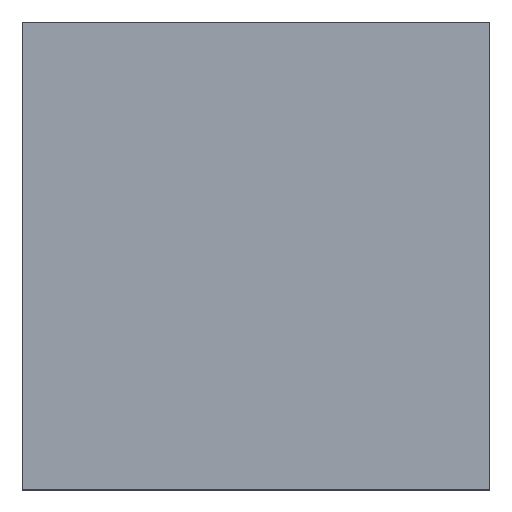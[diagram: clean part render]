
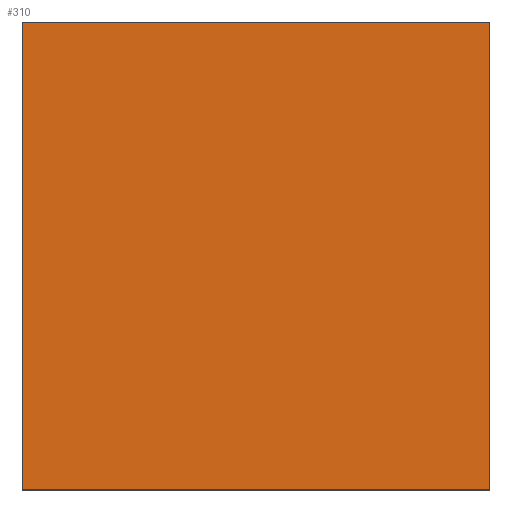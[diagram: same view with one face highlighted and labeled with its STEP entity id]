
A CAD part, top view. The second image highlights one B-rep face of the part: STEP entity #310.
In plain terms, the highlighted planar face has unit normal (0, 0, 1).
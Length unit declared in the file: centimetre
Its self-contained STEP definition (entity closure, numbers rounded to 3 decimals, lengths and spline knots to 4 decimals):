
#40 = LINE ( 'NONE', #114, #360 ) ;
#58 = CARTESIAN_POINT ( 'NONE',  ( 1000., 1000., 1000. ) ) ;
#65 = EDGE_CURVE ( 'NONE', #222, #537, #376, .T. ) ;
#69 = ORIENTED_EDGE ( 'NONE', *, *, #65, .T. ) ;
#82 = VERTEX_POINT ( 'NONE', #190 ) ;
#96 = VECTOR ( 'NONE', #421, 100. ) ;
#114 = CARTESIAN_POINT ( 'NONE',  ( 0., 1000., 1000. ) ) ;
#124 = DIRECTION ( 'NONE',  ( 1., 0., 0. ) ) ;
#143 = CARTESIAN_POINT ( 'NONE',  ( 1000., 0., 1000. ) ) ;
#162 = CARTESIAN_POINT ( 'NONE',  ( 0., 0., 1000. ) ) ;
#170 = AXIS2_PLACEMENT_3D ( 'NONE', #286, #171, #124 ) ;
#171 = DIRECTION ( 'NONE',  ( 0., 0., 1. ) ) ;
#190 = CARTESIAN_POINT ( 'NONE',  ( 0., 1000., 1000. ) ) ;
#222 = VERTEX_POINT ( 'NONE', #243 ) ;
#225 = EDGE_CURVE ( 'NONE', #537, #493, #402, .T. ) ;
#243 = CARTESIAN_POINT ( 'NONE',  ( 0., 0., 1000. ) ) ;
#286 = CARTESIAN_POINT ( 'NONE',  ( 0., 0., 1000. ) ) ;
#310 = ADVANCED_FACE ( 'NONE', ( #336 ), #509, .T. ) ;
#331 = DIRECTION ( 'NONE',  ( 1., 0., 0. ) ) ;
#336 = FACE_OUTER_BOUND ( 'NONE', #383, .T. ) ;
#343 = EDGE_CURVE ( 'NONE', #493, #82, #40, .T. ) ;
#360 = VECTOR ( 'NONE', #555, 100. ) ;
#376 = LINE ( 'NONE', #162, #431 ) ;
#383 = EDGE_LOOP ( 'NONE', ( #456, #69, #416, #514 ) ) ;
#394 = CARTESIAN_POINT ( 'NONE',  ( 1000., 1000., 1000. ) ) ;
#402 = LINE ( 'NONE', #58, #487 ) ;
#416 = ORIENTED_EDGE ( 'NONE', *, *, #225, .T. ) ;
#421 = DIRECTION ( 'NONE',  ( 0., -1., 0. ) ) ;
#431 = VECTOR ( 'NONE', #331, 100. ) ;
#452 = DIRECTION ( 'NONE',  ( 0., 1., 0. ) ) ;
#456 = ORIENTED_EDGE ( 'NONE', *, *, #559, .T. ) ;
#487 = VECTOR ( 'NONE', #452, 100. ) ;
#493 = VERTEX_POINT ( 'NONE', #394 ) ;
#501 = LINE ( 'NONE', #541, #96 ) ;
#509 = PLANE ( 'NONE',  #170 ) ;
#514 = ORIENTED_EDGE ( 'NONE', *, *, #343, .T. ) ;
#537 = VERTEX_POINT ( 'NONE', #143 ) ;
#541 = CARTESIAN_POINT ( 'NONE',  ( 0., 1000., 1000. ) ) ;
#555 = DIRECTION ( 'NONE',  ( -1., 0., 0. ) ) ;
#559 = EDGE_CURVE ( 'NONE', #82, #222, #501, .T. ) ;
